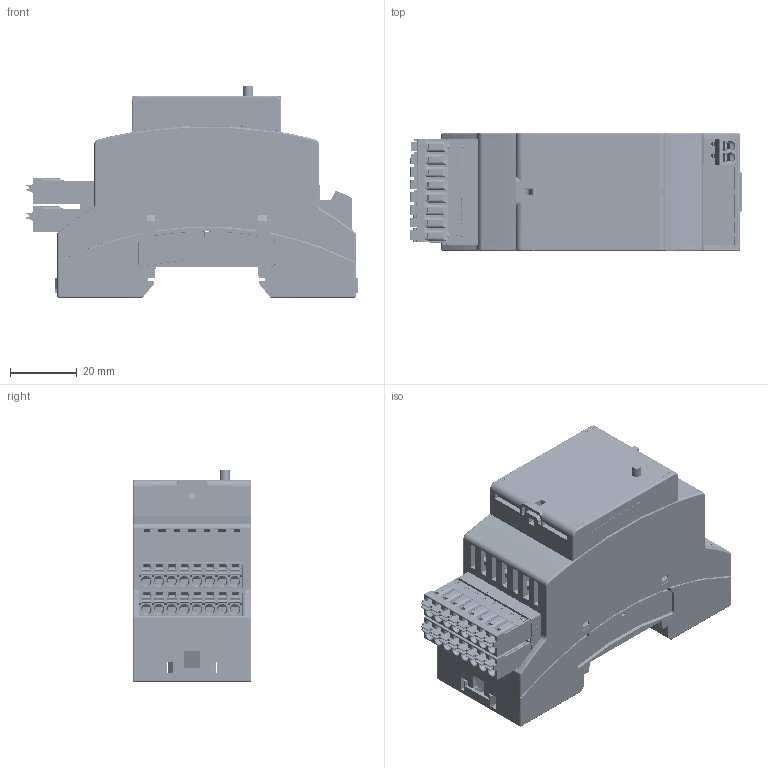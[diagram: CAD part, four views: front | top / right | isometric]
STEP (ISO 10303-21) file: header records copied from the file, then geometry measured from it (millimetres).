
FILE_DESCRIPTION(/* description */ (''),/* implementation_level */ '2;1');
FILE_NAME(/* name */ 'CML36_.step',/* time_stamp */ '2024-06-28T14:56:11+02:00',/* author */ (''),/* organization */ (''),/* preprocessor_version */ 'ST-DEVELOPER v20',/* originating_system */ 'Autodesk Translation Framework v13.14.0.145',/* authorisation */ '');
FILE_SCHEMA (('AUTOMOTIVE_DESIGN { 1 0 10303 214 3 1 1 }'));
Products named in the file (12): CML36; 2896115 v1; 2896115; 2896034_1; 1749586; 1749586_1; 1748037; 1748037_1; 1748037_2; 1752104; 1752104_1; LAN
Assembly tree (12 placements, depth 3):
  CML36
    2896115 v1
      2896115
    2896034_1
    1749586
      1749586_1
    1748037
      1748037_2
    1748037_1
      1748037_2
    1752104
      1752104_1
    LAN
Bounding box: 99.78 x 35.6 x 63.7 mm (x, y, z)
Volume: 91569.4 mm3; surface area: 133804 mm2
Topology: 65 solids, 65 shells, 15185 faces, 42920 edges, 28418 vertices
Faces by surface type: plane 13768, cylinder 1050, cone 149, bspline 111, torus 71, sphere 36
Full cylindrical faces by diameter (mm): 1 x36, 1.025 x4, 1.15 x4, 1.18 x16, 1.2 x30, 1.3 x16, 1.5 x5, 1.65 x3, 2 x4, 2.4 x6, 3 x22, 7 x1
Entity records: 450773 total; most frequent: CARTESIAN_POINT 88448, ORIENTED_EDGE 78286, DIRECTION 68564, EDGE_CURVE 39143, LINE 36858, VECTOR 36858, VERTEX_POINT 25964, AXIS2_PLACEMENT_3D 15853
